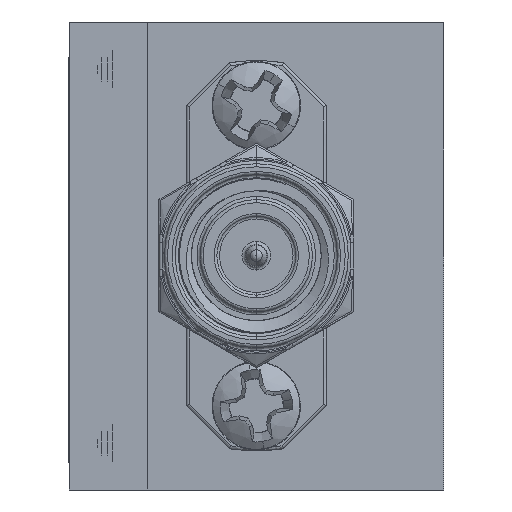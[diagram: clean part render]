
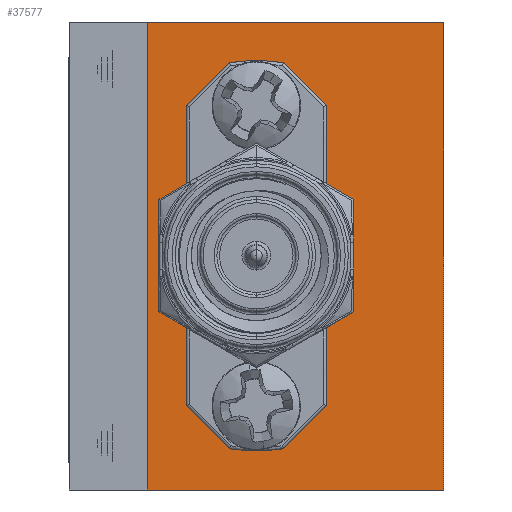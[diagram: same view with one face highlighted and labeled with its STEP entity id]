
A CAD part, left-side view. The second image highlights one B-rep face of the part: STEP entity #37577.
In plain terms, the highlighted planar face has unit normal (-1, 0, 0).
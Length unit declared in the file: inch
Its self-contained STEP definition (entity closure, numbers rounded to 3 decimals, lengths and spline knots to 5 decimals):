
#562 = DIRECTION ( 'NONE',  ( 0., 0., 1. ) ) ;
#1447 = LINE ( 'NONE', #79480, #11624 ) ;
#1531 = VERTEX_POINT ( 'NONE', #23614 ) ;
#2468 = CARTESIAN_POINT ( 'NONE',  ( -1.64882, 0.21082, -0.09987 ) ) ;
#6689 = CARTESIAN_POINT ( 'NONE',  ( -1.64882, 0.21082, -0.34087 ) ) ;
#7139 = DIRECTION ( 'NONE',  ( -1., 0., 0. ) ) ;
#8532 = VECTOR ( 'NONE', #74656, 39.37008 ) ;
#9088 = DIRECTION ( 'NONE',  ( -1., 0., 0. ) ) ;
#9511 = DIRECTION ( 'NONE',  ( 0., 1., 0. ) ) ;
#11624 = VECTOR ( 'NONE', #86073, 39.37008 ) ;
#11629 = CARTESIAN_POINT ( 'NONE',  ( -1.64882, -0.08918, 0.03413 ) ) ;
#12461 = DIRECTION ( 'NONE',  ( 0., 0., 1. ) ) ;
#12894 = DIRECTION ( 'NONE',  ( 0., 0., 1. ) ) ;
#13447 = CIRCLE ( 'NONE', #25460, 0.043 ) ;
#13603 = ORIENTED_EDGE ( 'NONE', *, *, #50209, .F. ) ;
#14032 = EDGE_LOOP ( 'NONE', ( #84448, #13603, #51308, #40465 ) ) ;
#14263 = LINE ( 'NONE', #42966, #68984 ) ;
#15007 = CARTESIAN_POINT ( 'NONE',  ( -1.64882, 0.21082, -0.62387 ) ) ;
#18244 = ORIENTED_EDGE ( 'NONE', *, *, #24618, .F. ) ;
#18813 = ORIENTED_EDGE ( 'NONE', *, *, #87368, .F. ) ;
#21255 = CIRCLE ( 'NONE', #73817, 0.083 ) ;
#21258 = DIRECTION ( 'NONE',  ( -1., 0., 0. ) ) ;
#22783 = VERTEX_POINT ( 'NONE', #44730 ) ;
#23614 = CARTESIAN_POINT ( 'NONE',  ( -1.64882, 0.21082, -0.05687 ) ) ;
#24618 = EDGE_CURVE ( 'NONE', #35974, #81802, #48604, .T. ) ;
#25460 = AXIS2_PLACEMENT_3D ( 'NONE', #2468, #9088, #73016 ) ;
#25606 = DIRECTION ( 'NONE',  ( -1., 0., 0. ) ) ;
#27839 = FACE_BOUND ( 'NONE', #60985, .T. ) ;
#31479 = EDGE_CURVE ( 'NONE', #81802, #35974, #91395, .T. ) ;
#32737 = VECTOR ( 'NONE', #9511, 39.37008 ) ;
#35974 = VERTEX_POINT ( 'NONE', #76400 ) ;
#37577 = ADVANCED_FACE ( 'NONE', ( #43849, #63589, #27839, #56512 ), #64039, .T. ) ;
#38335 = CARTESIAN_POINT ( 'NONE',  ( -1.64882, -0.08918, -0.71587 ) ) ;
#38399 = ORIENTED_EDGE ( 'NONE', *, *, #49128, .F. ) ;
#38397 = CARTESIAN_POINT ( 'NONE',  ( -1.64882, 0.21082, -0.14287 ) ) ;
#40451 = VERTEX_POINT ( 'NONE', #60605 ) ;
#40465 = ORIENTED_EDGE ( 'NONE', *, *, #80859, .T. ) ;
#40927 = VERTEX_POINT ( 'NONE', #48693 ) ;
#42446 = DIRECTION ( 'NONE',  ( -1., 0., 0. ) ) ;
#42892 = DIRECTION ( 'NONE',  ( 0., 0., 1. ) ) ;
#42966 = CARTESIAN_POINT ( 'NONE',  ( -1.64882, -0.08918, -0.71587 ) ) ;
#42972 = DIRECTION ( 'NONE',  ( -1., 0., 0. ) ) ;
#43849 = FACE_BOUND ( 'NONE', #79877, .T. ) ;
#44725 = ORIENTED_EDGE ( 'NONE', *, *, #52500, .F. ) ;
#44730 = CARTESIAN_POINT ( 'NONE',  ( -1.64882, 0.21082, -0.42387 ) ) ;
#45429 = CARTESIAN_POINT ( 'NONE',  ( -1.64882, 0.21082, -0.25787 ) ) ;
#47364 = LINE ( 'NONE', #11629, #8532 ) ;
#47370 = EDGE_CURVE ( 'NONE', #22783, #56163, #21255, .T. ) ;
#47502 = CIRCLE ( 'NONE', #86535, 0.083 ) ;
#48047 = EDGE_LOOP ( 'NONE', ( #18244, #52666 ) ) ;
#48537 = VERTEX_POINT ( 'NONE', #38397 ) ;
#48604 = CIRCLE ( 'NONE', #66617, 0.043 ) ;
#48693 = CARTESIAN_POINT ( 'NONE',  ( -1.64882, -0.08918, 0.03413 ) ) ;
#49128 = EDGE_CURVE ( 'NONE', #56163, #22783, #47502, .T. ) ;
#49458 = DIRECTION ( 'NONE',  ( 0., 0., 1. ) ) ;
#50209 = EDGE_CURVE ( 'NONE', #69430, #77071, #74813, .T. ) ;
#50859 = AXIS2_PLACEMENT_3D ( 'NONE', #56970, #21258, #49458 ) ;
#51308 = ORIENTED_EDGE ( 'NONE', *, *, #83746, .T. ) ;
#52500 = EDGE_CURVE ( 'NONE', #1531, #48537, #13447, .T. ) ;
#52666 = ORIENTED_EDGE ( 'NONE', *, *, #31479, .F. ) ;
#54974 = ORIENTED_EDGE ( 'NONE', *, *, #47370, .F. ) ;
#55963 = DIRECTION ( 'NONE',  ( -1., 0., 0. ) ) ;
#56163 = VERTEX_POINT ( 'NONE', #45429 ) ;
#56512 = FACE_OUTER_BOUND ( 'NONE', #14032, .T. ) ;
#56970 = CARTESIAN_POINT ( 'NONE',  ( -1.64882, 0.21082, -0.58087 ) ) ;
#59736 = CIRCLE ( 'NONE', #82231, 0.043 ) ;
#60549 = AXIS2_PLACEMENT_3D ( 'NONE', #85173, #42446, #42892 ) ;
#60605 = CARTESIAN_POINT ( 'NONE',  ( -1.64882, 0.38582, 0.03413 ) ) ;
#60720 = CARTESIAN_POINT ( 'NONE',  ( -1.64882, -0.08918, -0.71587 ) ) ;
#60985 = EDGE_LOOP ( 'NONE', ( #38399, #54974 ) ) ;
#63589 = FACE_BOUND ( 'NONE', #48047, .T. ) ;
#64039 = PLANE ( 'NONE',  #60549 ) ;
#64517 = EDGE_CURVE ( 'NONE', #77071, #40451, #1447, .T. ) ;
#65110 = CARTESIAN_POINT ( 'NONE',  ( -1.64882, 0.38582, -0.71587 ) ) ;
#66617 = AXIS2_PLACEMENT_3D ( 'NONE', #71190, #42972, #12894 ) ;
#68984 = VECTOR ( 'NONE', #71638, 39.37008 ) ;
#69430 = VERTEX_POINT ( 'NONE', #38335 ) ;
#71190 = CARTESIAN_POINT ( 'NONE',  ( -1.64882, 0.21082, -0.58087 ) ) ;
#71638 = DIRECTION ( 'NONE',  ( 0., 0., 1. ) ) ;
#73016 = DIRECTION ( 'NONE',  ( 0., 0., 1. ) ) ;
#73817 = AXIS2_PLACEMENT_3D ( 'NONE', #90960, #25606, #12461 ) ;
#74656 = DIRECTION ( 'NONE',  ( 0., 1., 0. ) ) ;
#74813 = LINE ( 'NONE', #60720, #32737 ) ;
#76400 = CARTESIAN_POINT ( 'NONE',  ( -1.64882, 0.21082, -0.53787 ) ) ;
#77071 = VERTEX_POINT ( 'NONE', #65110 ) ;
#79480 = CARTESIAN_POINT ( 'NONE',  ( -1.64882, 0.38582, -0.71587 ) ) ;
#79877 = EDGE_LOOP ( 'NONE', ( #44725, #18813 ) ) ;
#80859 = EDGE_CURVE ( 'NONE', #40927, #40451, #47364, .T. ) ;
#81802 = VERTEX_POINT ( 'NONE', #15007 ) ;
#82231 = AXIS2_PLACEMENT_3D ( 'NONE', #91686, #55963, #84607 ) ;
#83746 = EDGE_CURVE ( 'NONE', #69430, #40927, #14263, .T. ) ;
#84448 = ORIENTED_EDGE ( 'NONE', *, *, #64517, .F. ) ;
#84607 = DIRECTION ( 'NONE',  ( 0., 0., 1. ) ) ;
#85173 = CARTESIAN_POINT ( 'NONE',  ( -1.64882, -0.08918, -0.71587 ) ) ;
#86073 = DIRECTION ( 'NONE',  ( 0., 0., 1. ) ) ;
#86535 = AXIS2_PLACEMENT_3D ( 'NONE', #6689, #7139, #562 ) ;
#87368 = EDGE_CURVE ( 'NONE', #48537, #1531, #59736, .T. ) ;
#90960 = CARTESIAN_POINT ( 'NONE',  ( -1.64882, 0.21082, -0.34087 ) ) ;
#91395 = CIRCLE ( 'NONE', #50859, 0.043 ) ;
#91686 = CARTESIAN_POINT ( 'NONE',  ( -1.64882, 0.21082, -0.09987 ) ) ;
